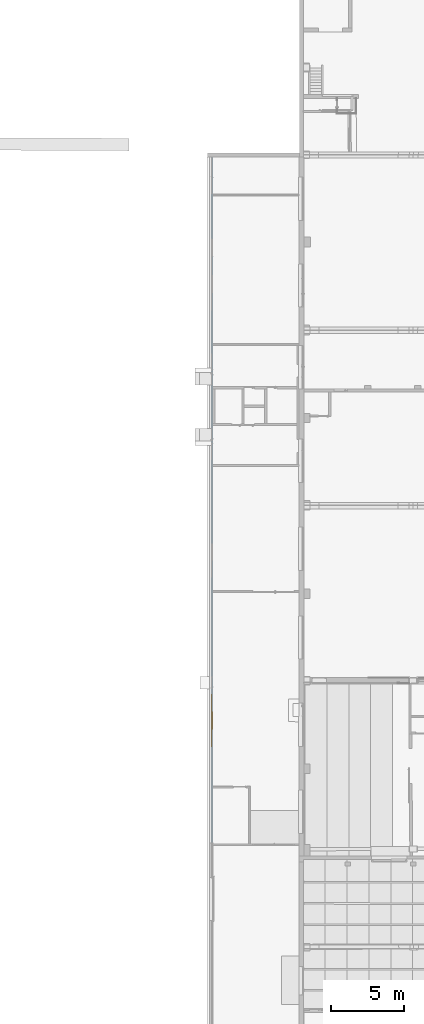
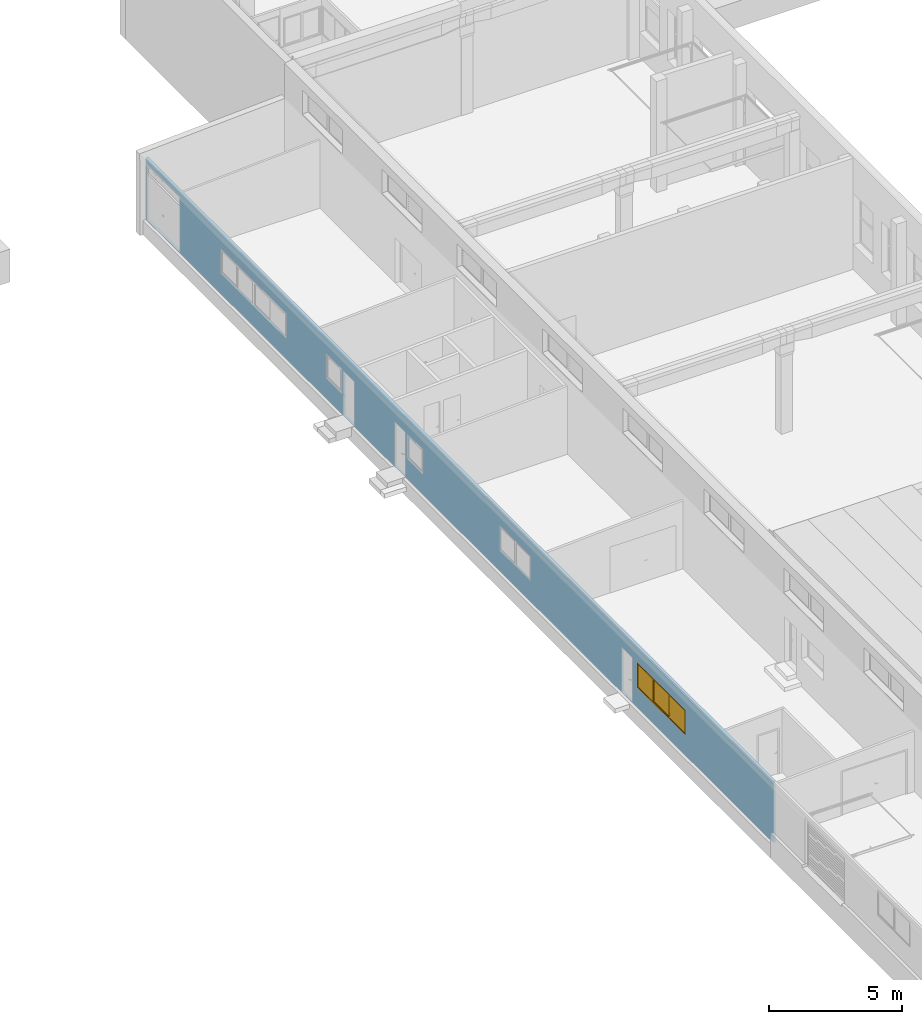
# One storey, part 105 of 301: 1 window, 9 openings, plus 1 element that does not belong to this part.
"""IFC2X3 building model written with IfcOpenShell, lengths in millimetres."""

from ifc_helpers import new_model, entity, si_unit, converted_unit, derived_unit, money_unit, direction, frame, origin_with_axes, place, context, subcontext, project, spatial, open_shell, faceted_brep, surface_model, material, type_object, element, fill, save


model = new_model("IFC2X3")

# Units and contexts
model_context = context("Model", 3, precision=0.01, world=origin_with_axes(), true_north=direction((0.0, 1.0)))
body_context = subcontext(model_context, "Body", "Model", "MODEL_VIEW")
ifc_project = project(units=[si_unit("LENGTHUNIT", "METRE", prefix="MILLI"), si_unit("AREAUNIT", "SQUARE_METRE"), si_unit("VOLUMEUNIT", "CUBIC_METRE"), converted_unit("PLANEANGLEUNIT", "DEGREE", entity("IfcPlaneAngleMeasure", 0.0174532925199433), si_unit("PLANEANGLEUNIT", "RADIAN"), dimensions=[0, 0, 0, 0, 0, 0, 0]), money_unit("EUR"), converted_unit("TIMEUNIT", "Year", entity("IfcTimeMeasure", 31557600.0), si_unit("TIMEUNIT", "SECOND"), dimensions=[0, 0, 1, 0, 0, 0, 0]), si_unit("MASSUNIT", "GRAM", prefix="KILO"), si_unit("THERMODYNAMICTEMPERATUREUNIT", "DEGREE_CELSIUS"), si_unit("LUMINOUSINTENSITYUNIT", "LUMEN"), si_unit("ENERGYUNIT", "JOULE", prefix="MEGA"), derived_unit("THERMALCONDUCTANCEUNIT", [(si_unit("POWERUNIT", "WATT"), 1), (si_unit("LENGTHUNIT", "METRE"), -1), (si_unit("THERMODYNAMICTEMPERATUREUNIT", "KELVIN"), -1)]), derived_unit("SPECIFICHEATCAPACITYUNIT", [(si_unit("ENERGYUNIT", "JOULE"), 1), (si_unit("MASSUNIT", "GRAM", prefix="KILO"), -1), (si_unit("THERMODYNAMICTEMPERATUREUNIT", "KELVIN"), -1)]), derived_unit("MASSDENSITYUNIT", [(si_unit("MASSUNIT", "GRAM", prefix="KILO"), 1), (si_unit("VOLUMEUNIT", "CUBIC_METRE"), -1)])], contexts=[model_context])

# Site, building, storey
site_placement = place(None, frame((0.0, 0.0, 8650.0), z_axis=(0.0, 0.0, 1.0), x_axis=(1.0, 0.0, 0.0)))
site = spatial("IfcSite", under=ifc_project, at=site_placement, Name="43301:001:0844", CompositionType="ELEMENT")
building_placement = place(site_placement, origin_with_axes())
building = spatial("IfcBuilding", under=site, at=building_placement, Name="Kuressaare Ametikooli tuulikute mehaanikute õppekorpus", CompositionType="ELEMENT")
storey_placement = place(building_placement, origin_with_axes())
storey = spatial("IfcBuildingStorey", under=building, at=storey_placement, Name="1.korrus", CompositionType="ELEMENT", Elevation=0.0)

# Wall, openings, window
ifc_material = material(Name="GENEERILINE - KONSTRUKTRIOON")
wall_type = type_object("IfcWallType", Name="GENEERILINE - KONSTRUKTRIOON 100", PredefinedType="NOTDEFINED")
wall_placement = place(storey_placement, frame((81892.20130850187, 110588.890590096, -350.0), z_axis=(0.0, 0.0, 1.0), x_axis=(-7.655742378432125e-06, -0.9999999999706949, 0.0)))
wall = element("IfcWall", 1, at=wall_placement, inside=storey, type_object=wall_type, material=ifc_material, Name="VS-XX", context=body_context, shape_type="Brep", body=[
    faceted_brep([(269.999999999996, 0.0, 2816.26484691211), (269.999999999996, 99.99999999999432, 2821.680593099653), (269.999999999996, 99.99999999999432, 0.0), (269.999999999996, 0.0, 0.0), (47352.6273163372, 99.9999999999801, 2809.655716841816), (47352.6273163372, 0.0, 2804.239970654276), (47352.6273163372, 99.9999999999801, 0.0), (5854.778075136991, 99.9999999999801, 924.9999999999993), (10814.77807513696, 100.0000000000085, 924.9999999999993), (10814.77807513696, 100.0000000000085, 2075.0), (5854.778075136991, 99.9999999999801, 2075.0), (13763.52836301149, 99.99999999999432, 2075.0), (13763.52836301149, 99.99999999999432, 924.9999999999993), (14963.52836301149, 100.0000000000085, 924.9999999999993), (14963.52836301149, 100.0000000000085, 2075.0), (21051.12921387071, 99.99999999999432, 2075.0), (19851.12921387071, 99.99999999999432, 2075.0), (19851.12921387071, 99.99999999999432, 924.9999999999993), (21051.12921387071, 99.99999999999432, 924.9999999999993), (29133.95455333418, 99.99999999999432, 924.9999999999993), (29133.95455333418, 99.99999999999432, 2075.0), (26783.95455333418, 99.99999999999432, 2075.0), (26783.95455333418, 99.99999999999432, 924.9999999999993), (37120.04927739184, 99.9999999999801, 924.9999999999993), (40770.04927739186, 99.9999999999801, 924.9999999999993), (40770.04927739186, 99.9999999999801, 2075.0), (37120.04927739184, 99.9999999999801, 2075.0), (297.2449189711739, 99.99999999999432, 2580.0), (297.2449189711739, 99.99999999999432, 19.99999999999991), (2817.24491897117, 99.99999999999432, 19.99999999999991), (2817.24491897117, 99.99999999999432, 2580.0), (15909.77920143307, 100.0000000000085, 2070.0), (15059.77920143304, 99.99999999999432, 2070.0), (15059.77920143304, 99.99999999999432, 19.99999999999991), (15909.77920143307, 100.0000000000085, 19.99999999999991), (19754.87837544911, 99.9999999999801, 19.99999999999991), (19754.87837544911, 99.9999999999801, 2070.0), (18904.8783754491, 99.99999999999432, 2070.0), (18904.8783754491, 99.99999999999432, 19.99999999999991), (35946.63936298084, 99.9999999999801, 19.99999999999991), (36796.63936298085, 99.9999999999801, 19.99999999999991), (36796.63936298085, 99.9999999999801, 2070.0), (35946.63936298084, 99.9999999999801, 2070.0), (47352.6273163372, 0.0, 0.0), (10814.77807513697, 0.0, 2075.0), (10814.77807513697, 0.0, 924.9999999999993), (5854.778075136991, 0.0, 924.9999999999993), (5854.778075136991, 0.0, 2075.0), (13763.5283630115, 0.0, 2075.0), (14963.5283630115, 0.0, 2075.0), (14963.5283630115, 0.0, 924.9999999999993), (13763.5283630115, 0.0, 924.9999999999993), (19851.12921387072, 0.0, 924.9999999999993), (19851.12921387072, 0.0, 2075.0), (21051.12921387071, 0.0, 2075.0), (21051.12921387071, 0.0, 924.9999999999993), (29133.95455333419, 0.0, 924.9999999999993), (26783.95455333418, 0.0, 924.9999999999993), (26783.95455333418, 0.0, 2075.0), (29133.95455333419, 0.0, 2075.0), (40770.04927739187, 0.0, 2075.0), (40770.04927739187, 0.0, 924.9999999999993), (37120.04927739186, 0.0, 924.9999999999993), (37120.04927739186, 0.0, 2075.0), (297.2449189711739, 0.0, 2580.0), (2817.244918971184, 0.0, 2580.0), (2817.244918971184, 0.0, 19.99999999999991), (297.2449189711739, 0.0, 19.99999999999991), (15059.77920143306, 0.0, 19.99999999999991), (15059.77920143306, 0.0, 2070.0), (15909.77920143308, 0.0, 2070.0), (15909.77920143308, 0.0, 19.99999999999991), (19754.87837544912, 0.0, 19.99999999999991), (18904.8783754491, 0.0, 19.99999999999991), (18904.8783754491, 0.0, 2070.0), (19754.87837544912, 0.0, 2070.0), (36796.63936298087, 0.0, 2070.0), (36796.63936298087, 0.0, 19.99999999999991), (35946.63936298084, 0.0, 19.99999999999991), (35946.63936298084, 0.0, 2070.0)], [[[0, 1, 2, 3]], [[4, 1, 0, 5]], [[1, 4, 6, 2], [7, 8, 9, 10], [11, 12, 13, 14], [15, 16, 17, 18], [19, 20, 21, 22], [23, 24, 25, 26], [27, 28, 29, 30], [31, 32, 33, 34], [35, 36, 37, 38], [39, 40, 41, 42]], [[2, 6, 43, 3]], [[5, 0, 3, 43], [44, 45, 46, 47], [48, 49, 50, 51], [52, 53, 54, 55], [56, 57, 58, 59], [60, 61, 62, 63], [64, 65, 66, 67], [68, 69, 70, 71], [72, 73, 74, 75], [76, 77, 78, 79]], [[4, 5, 43, 6]], [[45, 8, 7, 46]], [[44, 9, 8, 45]], [[47, 10, 9, 44]], [[46, 7, 10, 47]], [[48, 51, 12, 11]], [[51, 50, 13, 12]], [[50, 49, 14, 13]], [[49, 48, 11, 14]], [[15, 54, 53, 16]], [[16, 53, 52, 17]], [[17, 52, 55, 18]], [[18, 55, 54, 15]], [[20, 19, 56, 59]], [[21, 20, 59, 58]], [[22, 21, 58, 57]], [[19, 22, 57, 56]], [[61, 24, 23, 62]], [[60, 25, 24, 61]], [[63, 26, 25, 60]], [[62, 23, 26, 63]], [[64, 67, 28, 27]], [[67, 66, 29, 28]], [[66, 65, 30, 29]], [[65, 64, 27, 30]], [[31, 70, 69, 32]], [[32, 69, 68, 33]], [[33, 68, 71, 34]], [[34, 71, 70, 31]], [[36, 35, 72, 75]], [[37, 36, 75, 74]], [[38, 37, 74, 73]], [[35, 38, 73, 72]], [[77, 40, 39, 78]], [[76, 41, 40, 77]], [[79, 42, 41, 76]], [[78, 39, 42, 79]]]),
])
opening_1_placement = place(wall_placement, frame((8334.778075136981, 0.0, 924.9999999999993), z_axis=(0.0, 0.0, 1.0), x_axis=(1.0, 0.0, 0.0)))
element("IfcOpeningElement", 2, at=opening_1_placement, cuts=wall, Name="VA-XX", context=body_context, shape_type="Brep", body=[
    faceted_brep([(2479.999999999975, 101.3625195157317, 1150.0), (2479.999999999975, 101.3625195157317, 0.0), (-2480.000000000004, 101.3625195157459, 0.0), (-2480.000000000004, 101.3625195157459, 1150.0), (2479.999999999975, -1.362519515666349, 1150.0), (2479.999999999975, -1.362519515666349, 0.0), (-2479.99999999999, -1.36251951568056, 0.0), (-2479.99999999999, -1.36251951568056, 1150.0)], [[[0, 1, 2, 3]], [[4, 5, 1, 0]], [[5, 6, 2, 1]], [[6, 7, 3, 2]], [[7, 4, 0, 3]], [[6, 5, 4, 7]]]),
])
opening_2_placement = place(wall_placement, frame((14363.52836301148, 0.0, 924.9999999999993), z_axis=(0.0, 0.0, 1.0), x_axis=(1.0, 0.0, 0.0)))
element("IfcOpeningElement", 3, at=opening_2_placement, cuts=wall, Name="VA-XX", context=body_context, shape_type="Brep", body=[
    faceted_brep([(600.0000000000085, 101.362519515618, 1150.0), (600.0000000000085, 101.362519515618, 0.0), (-599.9999999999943, 101.362519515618, 0.0), (-599.9999999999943, 101.362519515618, 1150.0), (600.0000000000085, -1.362519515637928, 1150.0), (600.0000000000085, -1.362519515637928, 0.0), (-599.9999999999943, -1.362519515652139, 0.0), (-599.9999999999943, -1.362519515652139, 1150.0)], [[[0, 1, 2, 3]], [[4, 5, 1, 0]], [[5, 6, 2, 1]], [[6, 7, 3, 2]], [[7, 4, 0, 3]], [[6, 5, 4, 7]]]),
])
opening_3_placement = place(wall_placement, frame((20451.1292138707, 0.0, 924.9999999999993), z_axis=(0.0, 0.0, 1.0), x_axis=(1.0, 0.0, 0.0)))
element("IfcOpeningElement", 4, at=opening_3_placement, cuts=wall, Name="VA-XX", context=body_context, shape_type="Brep", body=[
    faceted_brep([(599.9999999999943, 101.3625195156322, 1150.0), (599.9999999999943, 101.3625195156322, 0.0), (-599.9999999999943, 101.3625195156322, 0.0), (-599.9999999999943, 101.3625195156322, 1150.0), (600.0000000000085, -1.362519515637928, 1150.0), (600.0000000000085, -1.362519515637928, 0.0), (-599.9999999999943, -1.362519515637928, 0.0), (-599.9999999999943, -1.362519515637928, 1150.0)], [[[0, 1, 2, 3]], [[4, 5, 1, 0]], [[5, 6, 2, 1]], [[6, 7, 3, 2]], [[7, 4, 0, 3]], [[6, 5, 4, 7]]]),
])
opening_4_placement = place(wall_placement, frame((27958.95455333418, 0.0, 924.9999999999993), z_axis=(0.0, 0.0, 1.0), x_axis=(1.0, 0.0, 0.0)))
element("IfcOpeningElement", 5, at=opening_4_placement, cuts=wall, Name="VA-XX", context=body_context, shape_type="Brep", body=[
    faceted_brep([(1174.999999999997, 101.3625195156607, 1150.0), (1174.999999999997, 101.3625195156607, 0.0), (-1175.000000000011, 101.3625195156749, 0.0), (-1175.000000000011, 101.3625195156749, 1150.0), (1174.999999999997, -1.362519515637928, 1150.0), (1174.999999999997, -1.362519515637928, 0.0), (-1174.999999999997, -1.362519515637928, 0.0), (-1174.999999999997, -1.362519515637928, 1150.0)], [[[0, 1, 2, 3]], [[4, 5, 1, 0]], [[5, 6, 2, 1]], [[6, 7, 3, 2]], [[7, 4, 0, 3]], [[6, 5, 4, 7]]]),
])
opening_5_placement = place(wall_placement, frame((38945.04927739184, 0.0, 924.9999999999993), z_axis=(0.0, 0.0, 1.0), x_axis=(1.0, 0.0, 0.0)))
opening_5 = element("IfcOpeningElement", 6, at=opening_5_placement, cuts=wall, Name="VA-XX", context=body_context, shape_type="Brep", body=[
    faceted_brep([(1825.000000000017, 101.3625195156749, 1150.0), (1825.000000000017, 101.3625195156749, 0.0), (-1825.000000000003, 101.3625195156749, 0.0), (-1825.000000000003, 101.3625195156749, 1150.0), (1825.000000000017, -1.362519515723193, 1150.0), (1825.000000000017, -1.362519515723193, 0.0), (-1825.000000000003, -1.362519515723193, 0.0), (-1825.000000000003, -1.362519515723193, 1150.0)], [[[0, 1, 2, 3]], [[4, 5, 1, 0]], [[5, 6, 2, 1]], [[6, 7, 3, 2]], [[7, 4, 0, 3]], [[6, 5, 4, 7]]]),
])
opening_6_placement = place(wall_placement, frame((1557.244918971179, 0.0, 19.99999999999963), z_axis=(0.0, 0.0, 1.0), x_axis=(1.0, 0.0, 0.0)))
element("IfcOpeningElement", 7, at=opening_6_placement, cuts=wall, context=body_context, shape_type="Brep", body=[
    faceted_brep([(1259.999999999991, 101.3625195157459, 2560.0), (1259.999999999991, 101.3625195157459, 0.0), (-1260.000000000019, 101.3625195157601, 0.0), (-1260.000000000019, 101.3625195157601, 2560.0), (1259.999999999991, -1.36251951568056, 2560.0), (1259.999999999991, -1.36251951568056, 0.0), (-1260.000000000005, -1.36251951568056, 0.0), (-1260.000000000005, -1.36251951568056, 2560.0)], [[[0, 1, 2, 3]], [[4, 5, 1, 0]], [[5, 6, 2, 1]], [[6, 7, 3, 2]], [[7, 4, 0, 3]], [[6, 5, 4, 7]]]),
])
opening_7_placement = place(wall_placement, frame((15484.77920143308, 0.0, 19.99999999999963), z_axis=(0.0, 0.0, 1.0), x_axis=(1.0, 0.0, 0.0)))
element("IfcOpeningElement", 8, at=opening_7_placement, cuts=wall, context=body_context, shape_type="Brep", body=[
    faceted_brep([(424.9999999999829, 101.3625195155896, 2050.0), (424.9999999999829, 101.3625195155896, 0.0), (-425.0000000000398, 101.3625195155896, 0.0), (-425.0000000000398, 101.3625195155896, 2050.0), (424.9999999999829, -1.362519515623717, 2050.0), (424.9999999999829, -1.362519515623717, 0.0), (-425.0000000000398, -1.362519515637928, 0.0), (-425.0000000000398, -1.362519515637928, 2050.0)], [[[0, 1, 2, 3]], [[4, 5, 1, 0]], [[5, 6, 2, 1]], [[6, 7, 3, 2]], [[7, 4, 0, 3]], [[6, 5, 4, 7]]]),
])
opening_8_placement = place(wall_placement, frame((19329.8783754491, 0.0, 19.99999999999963), z_axis=(0.0, 0.0, 1.0), x_axis=(1.0, 0.0, 0.0)))
element("IfcOpeningElement", 9, at=opening_8_placement, cuts=wall, context=body_context, shape_type="Brep", body=[
    faceted_brep([(425.0000000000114, 101.3625195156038, 2050.0), (425.0000000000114, 101.3625195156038, 0.0), (-425.0000000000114, 101.3625195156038, 0.0), (-425.0000000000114, 101.3625195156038, 2050.0), (425.0000000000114, -1.362519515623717, 2050.0), (425.0000000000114, -1.362519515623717, 0.0), (-424.9999999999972, -1.362519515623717, 0.0), (-424.9999999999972, -1.362519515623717, 2050.0)], [[[0, 1, 2, 3]], [[4, 5, 1, 0]], [[5, 6, 2, 1]], [[6, 7, 3, 2]], [[7, 4, 0, 3]], [[6, 5, 4, 7]]]),
])
opening_9_placement = place(wall_placement, frame((36371.63936298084, 0.0, 19.99999999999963), z_axis=(0.0, 0.0, 1.0), x_axis=(1.0, 0.0, 0.0)))
element("IfcOpeningElement", 10, at=opening_9_placement, cuts=wall, context=body_context, shape_type="Brep", body=[
    faceted_brep([(425.0000000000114, 101.362519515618, 2050.0), (425.0000000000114, 101.362519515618, 0.0), (-425.0000000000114, 101.362519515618, 0.0), (-425.0000000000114, 101.362519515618, 2050.0), (425.0000000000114, -1.362519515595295, 2050.0), (425.0000000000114, -1.362519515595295, 0.0), (-424.9999999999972, -1.362519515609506, 0.0), (-424.9999999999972, -1.362519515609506, 2050.0)], [[[0, 1, 2, 3]], [[4, 5, 1, 0]], [[5, 6, 2, 1]], [[6, 7, 3, 2]], [[7, 4, 0, 3]], [[6, 5, 4, 7]]]),
])
window_style = type_object("IfcWindowStyle", Name="Triple Window 27", ConstructionType="NOTDEFINED", OperationType="TRIPLE_PANEL_VERTICAL", ParameterTakesPrecedence=False, Sizeable=False)
window_placement = place(opening_5_placement, frame((-1825.000000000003, 0.0, 0.0), z_axis=(0.0, 0.0, 1.0), x_axis=(1.0, 0.0, 0.0)))
window = element("IfcWindow", 11, at=window_placement, inside=storey, type_object=window_style, Name="VA-XX", OverallHeight=1150.0, OverallWidth=3650.0, context=body_context, shape_type="SurfaceModel", body=[
    faceted_brep([(2416.666666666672, 24.99999999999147, 1100.0), (2416.666666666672, 0.0, 1100.0), (2466.666666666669, 0.0, 1100.0), (2466.666666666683, 49.99999999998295, 1100.0), (2441.666666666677, 49.99999999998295, 1100.0), (2441.666666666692, 24.99999999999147, 1100.0), (2416.666666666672, 24.99999999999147, 50.00000000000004), (2416.666666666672, 0.0, 50.00000000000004), (2466.666666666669, 0.0, 50.00000000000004), (2466.666666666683, 49.99999999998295, 50.00000000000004), (2441.666666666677, 49.99999999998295, 50.00000000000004), (2441.666666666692, 24.99999999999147, 50.00000000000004)], [[[0, 1, 2, 3, 4, 5]], [[6, 7, 1, 0]], [[8, 2, 1, 7]], [[9, 3, 2, 8]], [[4, 3, 9, 10]], [[10, 11, 5, 4]], [[5, 11, 6, 0]], [[11, 10, 9, 8, 7, 6]]]),
    faceted_brep([(1208.333333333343, 49.99999999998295, 1100.0), (1183.333333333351, 49.99999999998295, 1100.0), (1183.333333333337, 0.0, 1100.0), (1233.333333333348, 0.0, 1100.0), (1233.333333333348, 24.99999999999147, 1100.0), (1208.333333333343, 24.99999999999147, 1100.0), (1208.333333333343, 49.99999999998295, 50.00000000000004), (1183.333333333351, 49.99999999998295, 50.00000000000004), (1183.333333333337, 0.0, 50.00000000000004), (1233.333333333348, 0.0, 50.00000000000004), (1233.333333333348, 24.99999999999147, 50.00000000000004), (1208.333333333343, 24.99999999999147, 50.00000000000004)], [[[0, 1, 2, 3, 4, 5]], [[6, 7, 1, 0]], [[1, 7, 8, 2]], [[2, 8, 9, 3]], [[4, 3, 9, 10]], [[10, 11, 5, 4]], [[5, 11, 6, 0]], [[11, 10, 9, 8, 7, 6]]]),
    faceted_brep([(2416.666666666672, 24.99999999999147, 50.00000000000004), (2416.666666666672, 0.0, 50.00000000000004), (2466.666666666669, 0.0, 50.00000000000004), (2466.666666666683, 49.99999999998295, 50.00000000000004), (2441.666666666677, 49.99999999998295, 50.00000000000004), (2441.666666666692, 24.99999999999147, 50.00000000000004), (1233.333333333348, 24.99999999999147, 50.00000000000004), (1233.333333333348, 0.0, 50.00000000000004), (0.0, 0.0, 50.00000000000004), (0.0, 0.0, 0.0), (3650.00000000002, 0.0, 0.0), (3650.00000000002, 0.0, 50.00000000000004), (3600.000000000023, 0.0, 50.00000000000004), (1183.333333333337, 0.0, 50.00000000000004), (49.99999999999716, 0.0, 50.00000000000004), (3600.000000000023, 49.99999999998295, 50.00000000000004), (1208.333333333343, 49.99999999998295, 25.00000000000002), (2441.666666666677, 49.99999999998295, 25.00000000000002), (3650.00000000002, 49.99999999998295, 50.00000000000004), (3650.00000000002, 49.99999999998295, 0.0), (0.0, 49.99999999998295, 0.0), (0.0, 49.99999999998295, 50.00000000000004), (49.99999999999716, 49.99999999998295, 50.00000000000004), (1183.333333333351, 49.99999999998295, 50.00000000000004), (1208.333333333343, 49.99999999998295, 50.00000000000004), (2441.666666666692, 24.99999999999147, 25.00000000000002), (1208.333333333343, 24.99999999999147, 25.00000000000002), (1208.333333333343, 24.99999999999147, 50.00000000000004)], [[[0, 1, 2, 3, 4, 5]], [[6, 7, 1, 0]], [[8, 9, 10, 11, 12, 2, 1, 7, 13, 14]], [[15, 3, 2, 12]], [[16, 17, 4, 3, 15, 18, 19, 20, 21, 22, 23, 24]], [[17, 25, 5, 4]], [[5, 25, 26, 27, 6, 0]], [[27, 24, 23, 13, 7, 6]], [[21, 20, 9, 8]], [[20, 19, 10, 9]], [[19, 18, 11, 10]], [[18, 15, 12, 11]], [[23, 22, 14, 13]], [[22, 21, 8, 14]], [[16, 26, 25, 17]], [[27, 26, 16, 24]]]),
    faceted_brep([(1208.333333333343, 49.99999999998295, 1100.0), (1183.333333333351, 49.99999999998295, 1100.0), (49.99999999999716, 49.99999999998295, 1100.0), (0.0, 49.99999999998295, 1100.0), (0.0, 49.99999999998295, 1150.0), (3650.00000000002, 49.99999999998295, 1150.0), (3650.00000000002, 49.99999999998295, 1100.0), (3600.000000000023, 49.99999999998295, 1100.0), (2466.666666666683, 49.99999999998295, 1100.0), (2441.666666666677, 49.99999999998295, 1100.0), (2441.666666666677, 49.99999999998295, 1125.0), (1208.333333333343, 49.99999999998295, 1125.0), (1208.333333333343, 24.99999999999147, 1100.0), (1233.333333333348, 24.99999999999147, 1100.0), (1233.333333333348, 0.0, 1100.0), (1183.333333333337, 0.0, 1100.0), (49.99999999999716, 0.0, 1100.0), (0.0, 0.0, 1100.0), (0.0, 0.0, 1150.0), (3650.00000000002, 0.0, 1150.0), (3650.00000000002, 0.0, 1100.0), (3600.000000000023, 0.0, 1100.0), (2466.666666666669, 0.0, 1100.0), (2441.666666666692, 24.99999999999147, 1100.0), (2416.666666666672, 0.0, 1100.0), (2416.666666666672, 24.99999999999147, 1100.0), (2441.666666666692, 24.99999999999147, 1125.0), (1208.333333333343, 24.99999999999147, 1125.0)], [[[0, 1, 2, 3, 4, 5, 6, 7, 8, 9, 10, 11]], [[12, 13, 14, 15, 1, 0]], [[2, 1, 15, 16]], [[3, 2, 16, 17]], [[4, 3, 17, 18]], [[5, 4, 18, 19]], [[6, 5, 19, 20]], [[7, 6, 20, 21]], [[8, 7, 21, 22]], [[23, 9, 8, 22, 24, 25]], [[9, 23, 26, 10]], [[10, 26, 27, 11]], [[11, 27, 12, 0]], [[25, 13, 12, 27, 26, 23]], [[25, 24, 14, 13]], [[14, 24, 22, 21, 20, 19, 18, 17, 16, 15]]]),
    faceted_brep([(49.99999999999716, 0.0, 1100.0), (49.99999999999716, 49.99999999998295, 1100.0), (0.0, 49.99999999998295, 1100.0), (0.0, 0.0, 1100.0), (49.99999999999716, 0.0, 50.00000000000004), (49.99999999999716, 49.99999999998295, 50.00000000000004), (0.0, 49.99999999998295, 50.00000000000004), (0.0, 0.0, 50.00000000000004)], [[[0, 1, 2, 3]], [[4, 5, 1, 0]], [[1, 5, 6, 2]], [[3, 2, 6, 7]], [[0, 3, 7, 4]], [[7, 6, 5, 4]]]),
    faceted_brep([(3600.000000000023, 0.0, 50.00000000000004), (3600.000000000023, 49.99999999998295, 50.00000000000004), (3650.00000000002, 49.99999999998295, 50.00000000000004), (3650.00000000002, 0.0, 50.00000000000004), (3600.000000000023, 0.0, 1100.0), (3600.000000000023, 49.99999999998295, 1100.0), (3650.00000000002, 49.99999999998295, 1100.0), (3650.00000000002, 0.0, 1100.0)], [[[0, 1, 2, 3]], [[4, 5, 1, 0]], [[1, 5, 6, 2]], [[3, 2, 6, 7]], [[0, 3, 7, 4]], [[7, 6, 5, 4]]]),
    surface_model("IfcShellBasedSurfaceModel", [(50.00000000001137, 14.99999999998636, 50.00000000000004), (1183.333333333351, 14.99999999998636, 50.00000000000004), (1183.333333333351, 14.99999999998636, 1100.0), (50.00000000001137, 14.99999999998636, 1100.0)], [open_shell([[[0, 1, 2, 3]]])]),
    surface_model("IfcShellBasedSurfaceModel", [(50.00000000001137, 34.99999999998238, 50.00000000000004), (50.00000000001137, 34.99999999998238, 1100.0), (1183.333333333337, 34.99999999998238, 1100.0), (1183.333333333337, 34.99999999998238, 50.00000000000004)], [open_shell([[[0, 1, 2, 3]]])]),
    faceted_brep([(1258.33333333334, 24.99999999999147, 1075.0), (1258.333333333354, 74.99999999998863, 1075.0), (1208.333333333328, 74.99999999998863, 1075.0), (1208.333333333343, 24.99999999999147, 1075.0), (1258.33333333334, 24.99999999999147, 75.00000000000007), (1258.333333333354, 74.99999999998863, 75.00000000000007), (1208.333333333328, 74.99999999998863, 75.00000000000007), (1208.333333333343, 24.99999999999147, 75.00000000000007)], [[[0, 1, 2, 3]], [[4, 5, 1, 0]], [[1, 5, 6, 2]], [[3, 2, 6, 7]], [[0, 3, 7, 4]], [[7, 6, 5, 4]]]),
    faceted_brep([(2391.66666666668, 24.99999999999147, 75.00000000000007), (2391.66666666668, 74.99999999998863, 75.00000000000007), (2441.666666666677, 74.99999999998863, 75.00000000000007), (2441.666666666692, 24.99999999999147, 75.00000000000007), (2391.66666666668, 24.99999999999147, 1075.0), (2391.66666666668, 74.99999999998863, 1075.0), (2441.666666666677, 74.99999999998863, 1075.0), (2441.666666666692, 24.99999999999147, 1075.0)], [[[0, 1, 2, 3]], [[4, 5, 1, 0]], [[1, 5, 6, 2]], [[3, 2, 6, 7]], [[0, 3, 7, 4]], [[7, 6, 5, 4]]]),
    faceted_brep([(2441.666666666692, 24.99999999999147, 25.00000000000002), (2441.666666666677, 74.99999999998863, 25.00000000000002), (2441.666666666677, 74.99999999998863, 75.00000000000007), (2441.666666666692, 24.99999999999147, 75.00000000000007), (1208.333333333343, 24.99999999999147, 25.00000000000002), (1208.333333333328, 74.99999999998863, 25.00000000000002), (1208.333333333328, 74.99999999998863, 75.00000000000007), (1258.333333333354, 74.99999999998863, 75.00000000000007), (2391.66666666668, 74.99999999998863, 75.00000000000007), (2391.66666666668, 24.99999999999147, 75.00000000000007), (1258.33333333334, 24.99999999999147, 75.00000000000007), (1208.333333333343, 24.99999999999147, 75.00000000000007)], [[[0, 1, 2, 3]], [[4, 5, 1, 0]], [[1, 5, 6, 7, 8, 2]], [[3, 2, 8, 9]], [[0, 3, 9, 10, 11, 4]], [[11, 6, 5, 4]], [[10, 7, 6, 11]], [[9, 8, 7, 10]]]),
    faceted_brep([(1208.333333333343, 24.99999999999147, 1125.0), (1208.333333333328, 74.99999999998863, 1125.0), (1208.333333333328, 74.99999999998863, 1075.0), (1208.333333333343, 24.99999999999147, 1075.0), (2441.666666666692, 24.99999999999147, 1125.0), (2441.666666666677, 74.99999999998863, 1125.0), (2441.666666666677, 74.99999999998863, 1075.0), (2391.66666666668, 74.99999999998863, 1075.0), (1258.333333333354, 74.99999999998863, 1075.0), (1258.33333333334, 24.99999999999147, 1075.0), (2391.66666666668, 24.99999999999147, 1075.0), (2441.666666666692, 24.99999999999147, 1075.0)], [[[0, 1, 2, 3]], [[4, 5, 1, 0]], [[1, 5, 6, 7, 8, 2]], [[3, 2, 8, 9]], [[0, 3, 9, 10, 11, 4]], [[11, 6, 5, 4]], [[10, 7, 6, 11]], [[9, 8, 7, 10]]]),
    surface_model("IfcShellBasedSurfaceModel", [(1258.33333333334, 39.99999999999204, 75.00000000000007), (2391.66666666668, 39.99999999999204, 75.00000000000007), (2391.66666666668, 39.99999999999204, 1075.0), (1258.33333333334, 39.99999999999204, 1075.0)], [open_shell([[[0, 1, 2, 3]]])]),
    surface_model("IfcShellBasedSurfaceModel", [(1258.33333333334, 59.99999999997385, 75.00000000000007), (1258.33333333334, 59.99999999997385, 1075.0), (2391.66666666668, 59.99999999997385, 1075.0), (2391.66666666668, 59.99999999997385, 75.00000000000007)], [open_shell([[[0, 1, 2, 3]]])]),
    surface_model("IfcShellBasedSurfaceModel", [(2466.666666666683, 14.99999999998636, 50.00000000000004), (3600.000000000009, 14.99999999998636, 50.00000000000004), (3600.000000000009, 14.99999999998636, 1100.0), (2466.666666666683, 14.99999999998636, 1100.0)], [open_shell([[[0, 1, 2, 3]]])]),
    surface_model("IfcShellBasedSurfaceModel", [(2466.666666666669, 34.99999999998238, 50.00000000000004), (2466.666666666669, 34.99999999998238, 1100.0), (3600.000000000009, 34.99999999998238, 1100.0), (3600.000000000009, 34.99999999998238, 50.00000000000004)], [open_shell([[[0, 1, 2, 3]]])]),
])
fill(opening_5, window)

save(model, "model.ifc")
